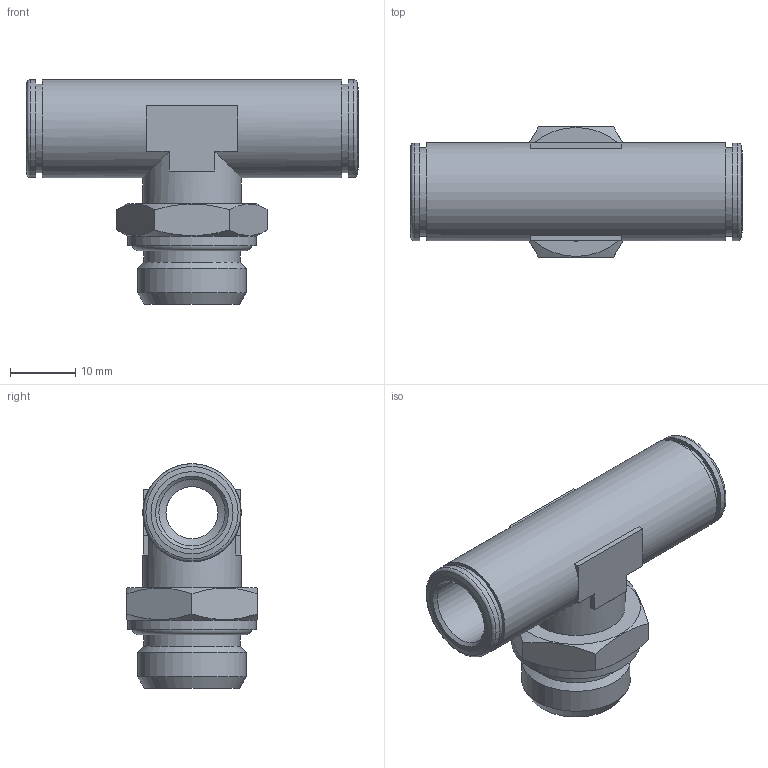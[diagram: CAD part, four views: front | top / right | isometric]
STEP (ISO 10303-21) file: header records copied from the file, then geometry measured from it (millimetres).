
FILE_DESCRIPTION(/* description */ (''),/* implementation_level */ '2;1');
FILE_NAME(/* name */ '202009-ES-I1-N2_STX020_10_G38',/* time_stamp */ '2016-07-04T09:49:12+02:00',/* author */ (''),/* organization */ (''),/* preprocessor_version */ 'ST-DEVELOPER v16.5',/* originating_system */ 'HiCAD 2016 2101.0 Build 254',/* authorisation */ '');
FILE_SCHEMA (('AUTOMOTIVE_DESIGN { 1 0 10303 214 1 1 1 1 }'));
Length unit declared in the file: millimetre
Products named in the file (6): Root; OR 14X1.78; DR10-N; 214629-ES; R211014-N
Assembly tree (5 placements, depth 2):
  Root
    OR 14X1.78
    DR10-N
    DR10-N
    214629-ES
    R211014-N
Bounding box: 51 x 20 x 34.55 mm (x, y, z)
Volume: 7767.1 mm3; surface area: 8860.4 mm2
Topology: 5 solids, 5 shells, 116 faces, 260 edges, 160 vertices
Faces by surface type: plane 55, cylinder 28, cone 28, torus 5
Full cylindrical faces by diameter (mm): 8 x2, 10.2 x4, 11 x1, 12.2 x2, 12.3 x2, 13 x2, 13.5 x2, 13.6 x2, 13.7 x2, 14.75 x1, 15 x2, 15.1 x2, 16.662 x1, 19.8 x1
Entity records: 5809 total; most frequent: CARTESIAN_POINT 1573, DIRECTION 532, PRESENTATION_STYLE_ASSIGNMENT 369, COLOUR_RGB 366, DRAUGHTING_PRE_DEFINED_CURVE_FONT 364, CURVE_STYLE 364, OVER_RIDING_STYLED_ITEM 364, ORIENTED_EDGE 364
